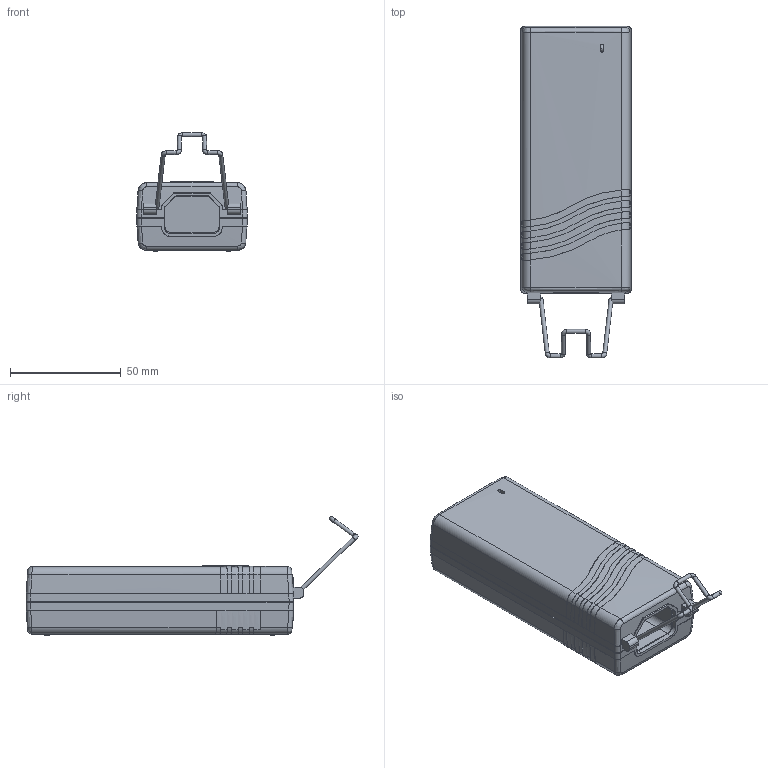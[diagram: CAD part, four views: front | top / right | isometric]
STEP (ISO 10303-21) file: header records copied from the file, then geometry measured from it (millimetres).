
FILE_DESCRIPTION(/* description */ (''),/* implementation_level */ '2;1');
FILE_NAME(/* name */ 'UE48-XP',/* time_stamp */ '2015-07-03T10:05:12+08:00',/* author */ (''),/* organization */ (''),/* preprocessor_version */ 'ST-DEVELOPER v9',/* originating_system */ 'UGS - NX 4.0',/* authorisation */ '');
FILE_SCHEMA (('CONFIG_CONTROL_DESIGN'));
Length unit declared in the file: millimetre
Products named in the file (4): CLIP-1; UE48-XP-LOWER; UE48-XP-UPPER; UE48-XP
Assembly tree (4 placements, depth 3):
  UE48-XP
    UE48-XP-LOWER
    UE48-XP-UPPER
      CLIP-1  x2
Bounding box: 50 x 150.19 x 53.58 mm (x, y, z)
Volume: 55780.3 mm3; surface area: 59910 mm2
Topology: 5 solids, 5 shells, 652 faces, 1716 edges, 1104 vertices
Faces by surface type: plane 351, cylinder 167, bspline 96, torus 20, extrusion 10, sphere 8
Full cylindrical faces by diameter (mm): 1.2 x2, 1.6 x6, 1.8 x18, 2.8 x2, 3 x1
Entity records: 23369 total; most frequent: CARTESIAN_POINT 8224, ORIENTED_EDGE 3276, DIRECTION 2591, EDGE_CURVE 1638, VERTEX_POINT 1083, VECTOR 1037, LINE 1027, AXIS2_PLACEMENT_3D 777
